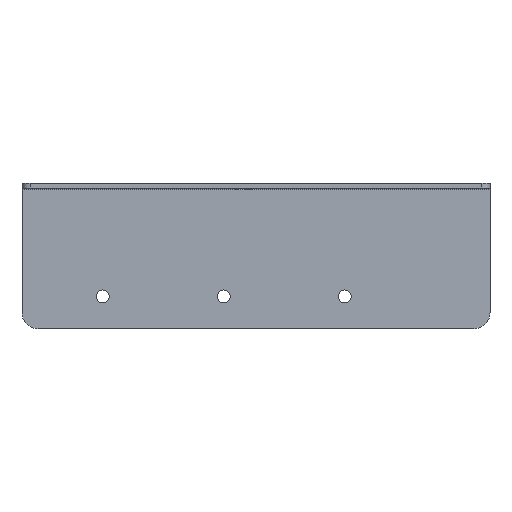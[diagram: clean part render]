
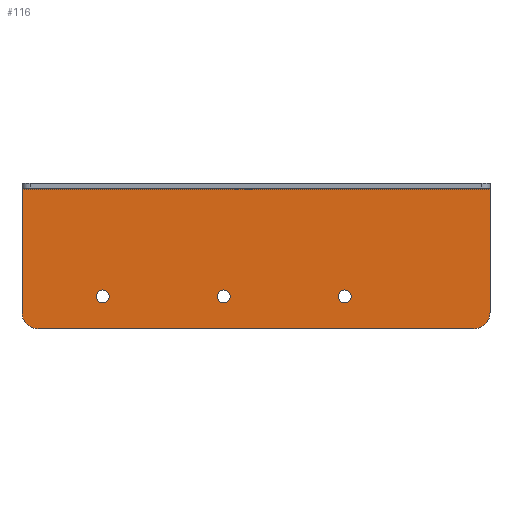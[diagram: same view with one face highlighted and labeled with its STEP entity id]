
A CAD part, top view. The second image highlights one B-rep face of the part: STEP entity #116.
In plain terms, the highlighted planar face has unit normal (0, 0, 1).
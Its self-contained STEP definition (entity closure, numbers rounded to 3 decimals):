
#20 = VERTEX_POINT ( 'NONE', #389 ) ;
#22 = EDGE_CURVE ( 'NONE', #23, #20, #388, .T. ) ;
#23 = VERTEX_POINT ( 'NONE', #384 ) ;
#29 = EDGE_CURVE ( 'NONE', #30, #136, #444, .T. ) ;
#30 = VERTEX_POINT ( 'NONE', #439 ) ;
#43 = EDGE_CURVE ( 'NONE', #44, #45, #507, .T. ) ;
#44 = VERTEX_POINT ( 'NONE', #503 ) ;
#45 = VERTEX_POINT ( 'NONE', #502 ) ;
#59 = EDGE_CURVE ( 'NONE', #60, #61, #350, .T. ) ;
#60 = VERTEX_POINT ( 'NONE', #342 ) ;
#61 = VERTEX_POINT ( 'NONE', #341 ) ;
#74 = EDGE_CURVE ( 'NONE', #75, #76, #367, .T. ) ;
#75 = VERTEX_POINT ( 'NONE', #363 ) ;
#76 = VERTEX_POINT ( 'NONE', #362 ) ;
#87 = ORIENTED_EDGE ( 'NONE', *, *, #88, .T. ) ;
#88 = EDGE_CURVE ( 'NONE', #89, #90, #310, .T. ) ;
#89 = VERTEX_POINT ( 'NONE', #306 ) ;
#90 = VERTEX_POINT ( 'NONE', #305 ) ;
#91 = ORIENTED_EDGE ( 'NONE', *, *, #107, .T. ) ;
#92 = EDGE_CURVE ( 'NONE', #23, #76, #303, .T. ) ;
#93 = ORIENTED_EDGE ( 'NONE', *, *, #22, .T. ) ;
#94 = ORIENTED_EDGE ( 'NONE', *, *, #99, .T. ) ;
#96 = EDGE_LOOP ( 'NONE', ( #87, #91, #108, #109, #93, #94 ) ) ;
#97 = ORIENTED_EDGE ( 'NONE', *, *, #98, .T. ) ;
#98 = EDGE_CURVE ( 'NONE', #45, #44, #547, .T. ) ;
#99 = EDGE_CURVE ( 'NONE', #20, #89, #566, .T. ) ;
#107 = EDGE_CURVE ( 'NONE', #90, #75, #726, .T. ) ;
#108 = ORIENTED_EDGE ( 'NONE', *, *, #74, .T. ) ;
#109 = ORIENTED_EDGE ( 'NONE', *, *, #92, .F. ) ;
#110 = ORIENTED_EDGE ( 'NONE', *, *, #43, .T. ) ;
#115 = EDGE_LOOP ( 'NONE', ( #121, #123 ) ) ;
#116 = ADVANCED_FACE ( 'NONE', ( #591, #590, #589, #588 ), #587, .F. ) ;
#117 = ORIENTED_EDGE ( 'NONE', *, *, #118, .T. ) ;
#118 = EDGE_CURVE ( 'NONE', #136, #30, #582, .T. ) ;
#119 = ORIENTED_EDGE ( 'NONE', *, *, #29, .T. ) ;
#121 = ORIENTED_EDGE ( 'NONE', *, *, #122, .T. ) ;
#122 = EDGE_CURVE ( 'NONE', #61, #60, #577, .T. ) ;
#123 = ORIENTED_EDGE ( 'NONE', *, *, #59, .T. ) ;
#124 = EDGE_LOOP ( 'NONE', ( #97, #110 ) ) ;
#125 = EDGE_LOOP ( 'NONE', ( #117, #119 ) ) ;
#136 = VERTEX_POINT ( 'NONE', #699 ) ;
#300 = DIRECTION ( 'NONE',  ( 1., 0., 0. ) ) ;
#301 = VECTOR ( 'NONE', #300, 1000. ) ;
#302 = CARTESIAN_POINT ( 'NONE',  ( 0., 86.263, 3. ) ) ;
#303 = LINE ( 'NONE', #302, #301 ) ;
#305 = CARTESIAN_POINT ( 'NONE',  ( 280., 0., 3. ) ) ;
#306 = CARTESIAN_POINT ( 'NONE',  ( 10., 0., 3. ) ) ;
#307 = DIRECTION ( 'NONE',  ( 1., 0., 0. ) ) ;
#308 = VECTOR ( 'NONE', #307, 1000. ) ;
#309 = CARTESIAN_POINT ( 'NONE',  ( 0., 0., 3. ) ) ;
#310 = LINE ( 'NONE', #309, #308 ) ;
#341 = CARTESIAN_POINT ( 'NONE',  ( 121., 20., 3. ) ) ;
#342 = CARTESIAN_POINT ( 'NONE',  ( 129., 20., 3. ) ) ;
#343 = DIRECTION ( 'NONE',  ( -1., 0., 0. ) ) ;
#344 = DIRECTION ( 'NONE',  ( 0., 0., -1. ) ) ;
#345 = CARTESIAN_POINT ( 'NONE',  ( 125., 20., 3. ) ) ;
#346 = AXIS2_PLACEMENT_3D ( 'NONE', #345, #344, #343 ) ;
#350 = CIRCLE ( 'NONE', #346, 4. ) ;
#362 = CARTESIAN_POINT ( 'NONE',  ( 290., 86.263, 3. ) ) ;
#363 = CARTESIAN_POINT ( 'NONE',  ( 290., 10., 3. ) ) ;
#364 = DIRECTION ( 'NONE',  ( 0., 1., 0. ) ) ;
#365 = VECTOR ( 'NONE', #364, 1000. ) ;
#366 = CARTESIAN_POINT ( 'NONE',  ( 290., 0., 3. ) ) ;
#367 = LINE ( 'NONE', #366, #365 ) ;
#384 = CARTESIAN_POINT ( 'NONE',  ( 0., 86.263, 3. ) ) ;
#385 = DIRECTION ( 'NONE',  ( 0., -1., 0. ) ) ;
#386 = VECTOR ( 'NONE', #385, 1000. ) ;
#387 = CARTESIAN_POINT ( 'NONE',  ( 0., 0., 3. ) ) ;
#388 = LINE ( 'NONE', #387, #386 ) ;
#389 = CARTESIAN_POINT ( 'NONE',  ( 0., 10., 3. ) ) ;
#420 = CARTESIAN_POINT ( 'NONE',  ( 50., 20., 3. ) ) ;
#439 = CARTESIAN_POINT ( 'NONE',  ( 204., 20., 3. ) ) ;
#440 = DIRECTION ( 'NONE',  ( -1., 0., 0. ) ) ;
#441 = DIRECTION ( 'NONE',  ( 0., 0., -1. ) ) ;
#442 = CARTESIAN_POINT ( 'NONE',  ( 200., 20., 3. ) ) ;
#443 = AXIS2_PLACEMENT_3D ( 'NONE', #442, #441, #440 ) ;
#444 = CIRCLE ( 'NONE', #443, 4. ) ;
#502 = CARTESIAN_POINT ( 'NONE',  ( 46., 20., 3. ) ) ;
#503 = CARTESIAN_POINT ( 'NONE',  ( 54., 20., 3. ) ) ;
#504 = DIRECTION ( 'NONE',  ( -1., 0., 0. ) ) ;
#505 = DIRECTION ( 'NONE',  ( 0., 0., -1. ) ) ;
#506 = AXIS2_PLACEMENT_3D ( 'NONE', #420, #505, #504 ) ;
#507 = CIRCLE ( 'NONE', #506, 4. ) ;
#544 = DIRECTION ( 'NONE',  ( -1., 0., 0. ) ) ;
#545 = DIRECTION ( 'NONE',  ( 0., 0., -1. ) ) ;
#546 = AXIS2_PLACEMENT_3D ( 'NONE', #548, #545, #544 ) ;
#547 = CIRCLE ( 'NONE', #546, 4. ) ;
#548 = CARTESIAN_POINT ( 'NONE',  ( 50., 20., 3. ) ) ;
#562 = DIRECTION ( 'NONE',  ( -1., 0., 0. ) ) ;
#563 = DIRECTION ( 'NONE',  ( 0., 0., 1. ) ) ;
#564 = CARTESIAN_POINT ( 'NONE',  ( 10., 10., 3. ) ) ;
#565 = AXIS2_PLACEMENT_3D ( 'NONE', #564, #563, #562 ) ;
#566 = CIRCLE ( 'NONE', #565, 10. ) ;
#573 = DIRECTION ( 'NONE',  ( -1., 0., 0. ) ) ;
#574 = DIRECTION ( 'NONE',  ( 0., 0., -1. ) ) ;
#575 = CARTESIAN_POINT ( 'NONE',  ( 125., 20., 3. ) ) ;
#576 = AXIS2_PLACEMENT_3D ( 'NONE', #575, #574, #573 ) ;
#577 = CIRCLE ( 'NONE', #576, 4. ) ;
#578 = DIRECTION ( 'NONE',  ( -1., 0., 0. ) ) ;
#579 = DIRECTION ( 'NONE',  ( 0., 0., -1. ) ) ;
#580 = CARTESIAN_POINT ( 'NONE',  ( 200., 20., 3. ) ) ;
#581 = AXIS2_PLACEMENT_3D ( 'NONE', #580, #579, #578 ) ;
#582 = CIRCLE ( 'NONE', #581, 4. ) ;
#583 = DIRECTION ( 'NONE',  ( -1., 0., 0. ) ) ;
#584 = DIRECTION ( 'NONE',  ( 0., 0., -1. ) ) ;
#585 = CARTESIAN_POINT ( 'NONE',  ( 0., 90., 3. ) ) ;
#586 = AXIS2_PLACEMENT_3D ( 'NONE', #585, #584, #583 ) ;
#587 = PLANE ( 'NONE',  #586 ) ;
#588 = FACE_OUTER_BOUND ( 'NONE', #96, .T. ) ;
#589 = FACE_BOUND ( 'NONE', #124, .T. ) ;
#590 = FACE_BOUND ( 'NONE', #115, .T. ) ;
#591 = FACE_BOUND ( 'NONE', #125, .T. ) ;
#699 = CARTESIAN_POINT ( 'NONE',  ( 196., 20., 3. ) ) ;
#722 = DIRECTION ( 'NONE',  ( -1., 0., 0. ) ) ;
#723 = DIRECTION ( 'NONE',  ( 0., 0., 1. ) ) ;
#724 = CARTESIAN_POINT ( 'NONE',  ( 280., 10., 3. ) ) ;
#725 = AXIS2_PLACEMENT_3D ( 'NONE', #724, #723, #722 ) ;
#726 = CIRCLE ( 'NONE', #725, 10. ) ;
